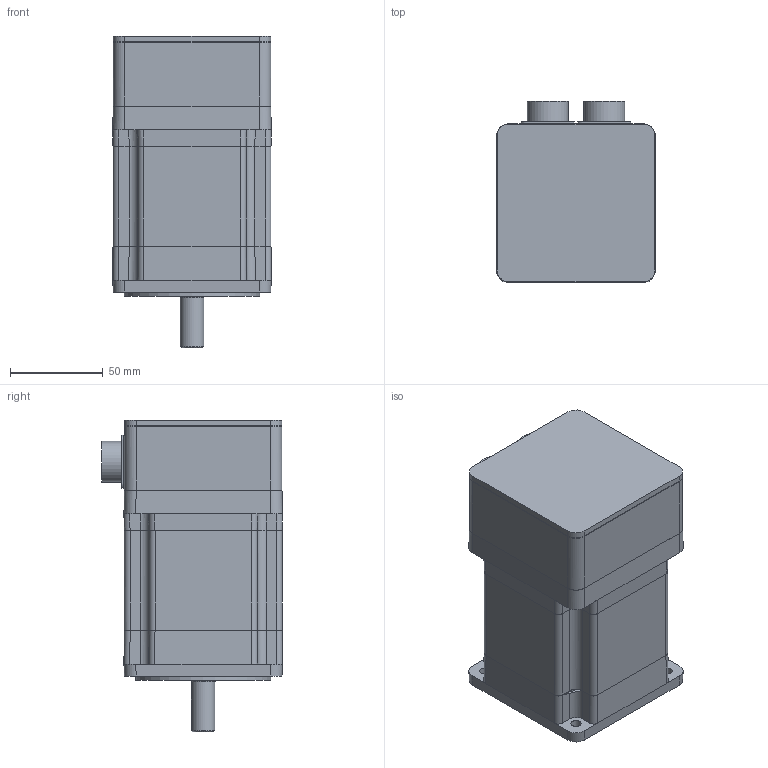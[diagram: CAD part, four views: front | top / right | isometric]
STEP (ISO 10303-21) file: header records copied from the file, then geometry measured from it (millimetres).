
FILE_DESCRIPTION((''),'2;1');
FILE_NAME('C:\CAD_work\Dummy_Modeling_Project_02-12-05\3D MODELS\BE342_MS_TQ.stp','2005-12-20T16:10:41',('jevans'),(''),'Autodesk Inventor 10','Autodesk Inventor 10','');
FILE_SCHEMA(('AUTOMOTIVE_DESIGN { 1 0 10303 214 1 1 1 1 }'));
Length unit declared in the file: inch
Products named in the file (1): BE34_MS_TQ
Bounding box: 85.66 x 97.77 x 168.53 mm (x, y, z)
Volume: 943822.2 mm3; surface area: 77941.1 mm2
Topology: 4 solids, 4 shells, 304 faces, 724 edges, 448 vertices
Faces by surface type: plane 133, cylinder 122, bspline 31, sphere 12, cone 6
Full cylindrical faces by diameter (mm): 1.905 x26, 2.5 x2, 2.54 x4, 12.7 x1, 14.994 x1, 15 x1, 19.177 x1, 22.225 x1, 32 x1, 32.007 x1, 35.001 x1, 36.779 x1, 37.109 x1, 41.326 x3, 73.025 x1
Entity records: 8518 total; most frequent: CARTESIAN_POINT 1785, DIRECTION 1448, ORIENTED_EDGE 1242, EDGE_CURVE 621, AXIS2_PLACEMENT_3D 553, VERTEX_POINT 429, EDGE_LOOP 424, VECTOR 342
